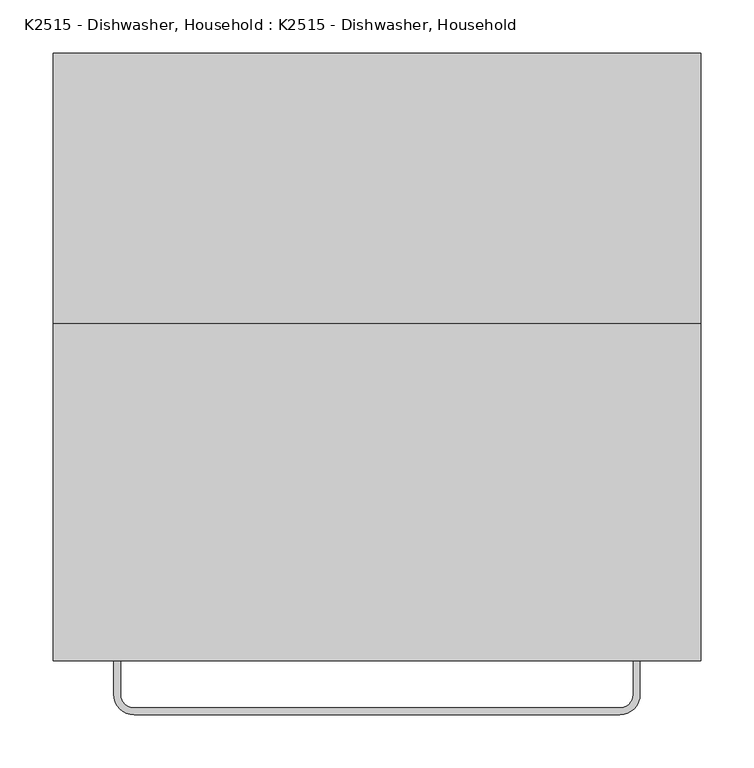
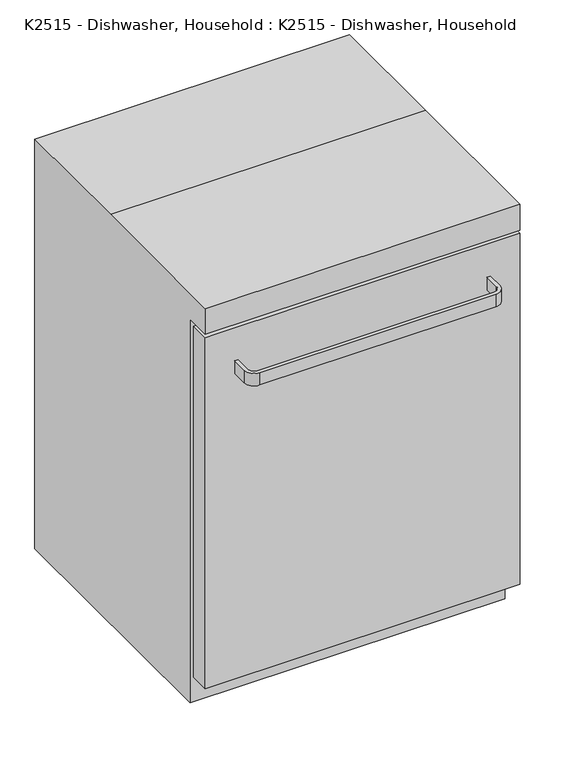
"""IFC4 building model written with IfcOpenShell, lengths in millimetres: proxy geometry, K2515 - Dishwasher, Household : K2515 - Dishwasher, Household."""

from ifc_helpers import new_model, si_unit, point, frame, frame_2d, origin, place, context, project, spatial, polyline, circle_curve, trimmed, segment, composite_curve, outline, extrude, source, transform, mapped, element, save


def k2515_dishwasher_household_k2515_dishwasher_household_cf2658f5(model_context):
    return source(origin(), model_context, "Body", "SweptSolid", [
        extrude(outline(composite_curve([segment(polyline([(-247.65, -254.0), (-241.3, -254.0), (-241.3, -285.75)]), True, "CONTINUOUS"), segment(trimmed(circle_curve(frame_2d((-228.6, -285.75)), 12.7), [point((-241.3, -285.75))], [point((-228.6, -298.45))], True, "CARTESIAN"), True, "CONTINUOUS"), segment(polyline([(-228.6, -298.45), (228.6, -298.45)]), True, "CONTINUOUS"), segment(trimmed(circle_curve(frame_2d((228.6, -285.75)), 12.7), [point((228.6, -298.45))], [point((241.3, -285.75))], True, "CARTESIAN"), True, "CONTINUOUS"), segment(polyline([(241.3, -285.75), (241.3, -254.0), (247.65, -254.0), (247.65, -285.75)]), True, "CONTINUOUS"), segment(trimmed(circle_curve(frame_2d((228.6, -285.75)), 19.05), [point((247.65, -285.75))], [point((228.6, -304.8))], False, "CARTESIAN"), True, "CONTINUOUS"), segment(polyline([(228.6, -304.8), (-228.6, -304.8)]), True, "CONTINUOUS"), segment(trimmed(circle_curve(frame_2d((-228.6, -285.75)), 19.05), [point((-228.6, -304.8))], [point((-247.65, -285.75))], False, "CARTESIAN"), True, "CONTINUOUS"), segment(polyline([(-247.65, -285.75), (-247.65, -254.0)]), True, "CONTINUOUS")], self_intersect=False)), frame((0.0, 0.0, 685.8), z_axis=(0.0, 0.0, 1.0), x_axis=(1.0, 0.0, 0.0)), (0.0, 0.0, 1.0), 25.4),
        extrude(outline(polyline([(292.1, -203.2), (292.1, -215.9), (-292.4220728, -215.9), (-292.4220728, -203.2), (292.1, -203.2)])), frame((0.0, 0.0, 72.8928444), z_axis=(0.0, 0.0, 1.0), x_axis=(1.0, 0.0, 0.0)), (0.0, 0.0, 1.0), 691.4472963),
        extrude(outline(polyline([(-254.0, 838.2), (63.5, 838.2), (317.5, 838.2), (317.5, 0.0), (-203.2, 0.0), (-203.2, 785.0736181), (-254.0, 785.0736181), (-254.0, 838.2)])), frame((-304.8, 0.0, 0.0), z_axis=(1.0, 0.0, 0.0), x_axis=(0.0, 1.0, 0.0)), (0.0, 0.0, 1.0), 609.6),
        extrude(outline(polyline([(304.8, -254.0), (-304.8, -254.0), (-304.8, -215.9), (304.8, -215.9), (304.8, -254.0)])), frame((0.0, 0.0, 60.2898187), z_axis=(0.0, 0.0, 1.0), x_axis=(1.0, 0.0, 0.0)), (0.0, 0.0, 1.0), 718.4337993),
    ])


if __name__ == "__main__":
    model = new_model("IFC4")
    model_context = context("Model", 3, world=origin())
    ifc_project = project(units=[si_unit("LENGTHUNIT", "METRE", prefix="MILLI")], contexts=[model_context])
    site = spatial("IfcSite", under=ifc_project)
    building = spatial("IfcBuilding", under=site)
    placement = place(None, origin())
    k2515_dishwasher_household_k2515_dishwasher_household_shape = k2515_dishwasher_household_k2515_dishwasher_household_cf2658f5(model_context)
    element("IfcBuildingElementProxy", 1, Name="K2515 - Dishwasher, Household : K2515 - Dishwasher, Household", ObjectType="K2515 - Dishwasher, Household : K2515 - Dishwasher, Household", at=placement, inside=building, context=model_context, shape_type="MappedRepresentation", body=[
        mapped(k2515_dishwasher_household_k2515_dishwasher_household_shape, transform((0.0, 0.0, 0.0), x_axis=(1.0, 0.0, 0.0), y_axis=(0.0, 1.0, 0.0), z_axis=(0.0, 0.0, 1.0))),
    ])
    save(model, "model.ifc")
